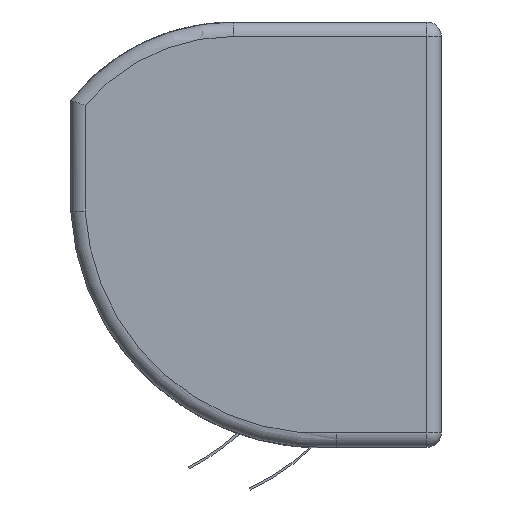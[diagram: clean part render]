
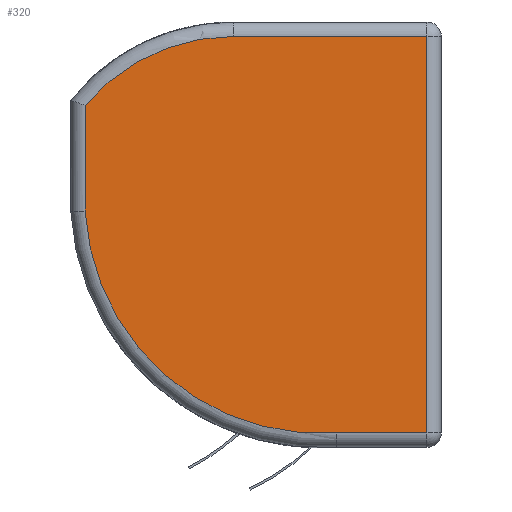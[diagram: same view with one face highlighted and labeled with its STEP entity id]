
A CAD part, left-side view. The second image highlights one B-rep face of the part: STEP entity #320.
In plain terms, the highlighted planar face has unit normal (-1, 0, 0).
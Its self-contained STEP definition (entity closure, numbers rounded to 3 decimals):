
#128 = VERTEX_POINT('',#129);
#129 = CARTESIAN_POINT('',(-500.,10.,285.));
#136 = EDGE_CURVE('',#128,#137,#139,.T.);
#137 = VERTEX_POINT('',#138);
#138 = CARTESIAN_POINT('',(-500.,10.,10.));
#139 = LINE('',#140,#141);
#140 = CARTESIAN_POINT('',(-500.,10.,295.));
#141 = VECTOR('',#142,1.);
#142 = DIRECTION('',(0.,0.,-1.));
#320 = ADVANCED_FACE('',(#321),#364,.T.);
#321 = FACE_BOUND('',#322,.T.);
#322 = EDGE_LOOP('',(#323,#331,#332,#340,#349,#357));
#323 = ORIENTED_EDGE('',*,*,#324,.F.);
#324 = EDGE_CURVE('',#137,#325,#327,.T.);
#325 = VERTEX_POINT('',#326);
#326 = CARTESIAN_POINT('',(-500.,72.433,10.));
#327 = LINE('',#328,#329);
#328 = CARTESIAN_POINT('',(-500.,0.,10.));
#329 = VECTOR('',#330,1.);
#330 = DIRECTION('',(0.,1.,0.));
#331 = ORIENTED_EDGE('',*,*,#136,.F.);
#332 = ORIENTED_EDGE('',*,*,#333,.F.);
#333 = EDGE_CURVE('',#334,#128,#336,.T.);
#334 = VERTEX_POINT('',#335);
#335 = CARTESIAN_POINT('',(-500.,144.183,285.));
#336 = LINE('',#337,#338);
#337 = CARTESIAN_POINT('',(-500.,144.183,285.));
#338 = VECTOR('',#339,1.);
#339 = DIRECTION('',(0.,-1.,0.));
#340 = ORIENTED_EDGE('',*,*,#341,.F.);
#341 = EDGE_CURVE('',#342,#334,#344,.T.);
#342 = VERTEX_POINT('',#343);
#343 = CARTESIAN_POINT('',(-500.,247.,237.126));
#344 = CIRCLE('',#345,134.346);
#345 = AXIS2_PLACEMENT_3D('',#346,#347,#348);
#346 = CARTESIAN_POINT('',(-500.,144.183,150.654));
#347 = DIRECTION('',(1.,0.,0.));
#348 = DIRECTION('',(0.,0.782,0.624)
  );
#349 = ORIENTED_EDGE('',*,*,#350,.F.);
#350 = EDGE_CURVE('',#351,#342,#353,.T.);
#351 = VERTEX_POINT('',#352);
#352 = CARTESIAN_POINT('',(-500.,247.016,163.888));
#353 = LINE('',#354,#355);
#354 = CARTESIAN_POINT('',(-500.,247.,163.326));
#355 = VECTOR('',#356,1.);
#356 = DIRECTION('',(0.,0.,1.));
#357 = ORIENTED_EDGE('',*,*,#358,.F.);
#358 = EDGE_CURVE('',#325,#351,#359,.T.);
#359 = CIRCLE('',#360,163.443);
#360 = AXIS2_PLACEMENT_3D('',#361,#362,#363);
#361 = CARTESIAN_POINT('',(-500.,83.83,173.069));
#362 = DIRECTION('',(1.,0.,0.));
#363 = DIRECTION('',(0.,-0.066,
    -0.998));
#364 = PLANE('',#365);
#365 = AXIS2_PLACEMENT_3D('',#366,#367,#368);
#366 = CARTESIAN_POINT('',(-500.,110.541,154.912));
#367 = DIRECTION('',(-1.,0.,0.));
#368 = DIRECTION('',(0.,0.,1.));
